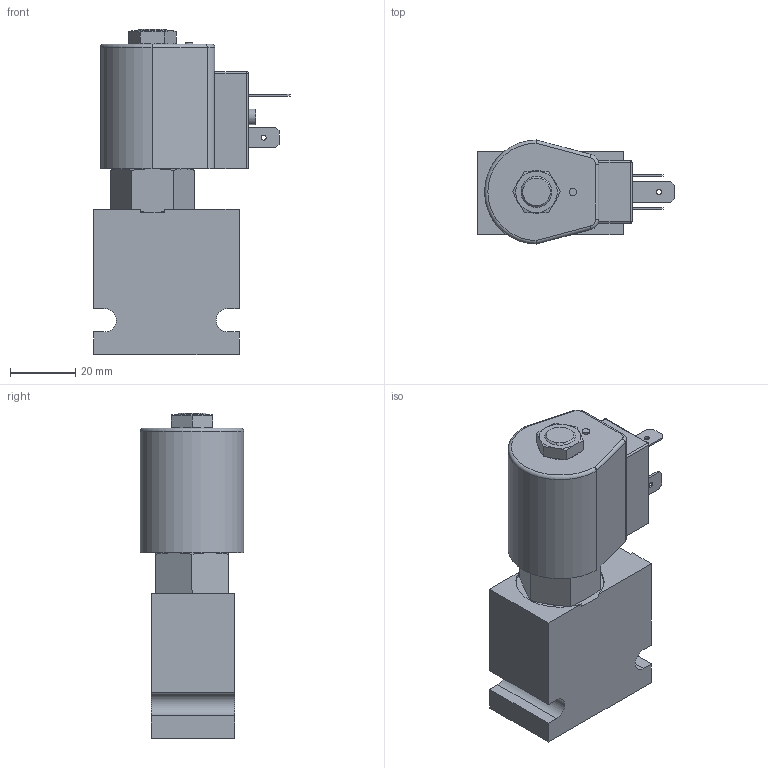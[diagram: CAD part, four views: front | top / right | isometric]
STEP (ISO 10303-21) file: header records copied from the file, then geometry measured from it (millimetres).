
FILE_DESCRIPTION( ( 'Unknown' ), '1' );
FILE_NAME( 'G:/Graphic Design/Graphic Design 2/Data Sheets/SOLENOID OPERATED VALVES/4_STEP/2W2P Normally Closed/HA-S2P00-A2.stp', 'Unknown', ( 'Unknown' ), ( 'Unknown' ), 'PSStep 15.0.49', 'Unknown', ' ' );
FILE_SCHEMA( ( 'AUTOMOTIVE_DESIGN { 1 0 10303 214 1 1 1 1 }' ) );
Length unit declared in the file: millimetre
Products named in the file (11): HAS2P00; MAS2E00-3D Full1; MAS2E00-3D Full2; MAS2E00-3D Full3; MAS2E00-3D Full4; MAS2E00-3D Full5; d-mhc12; MHC_0; Assem1; B-DMAA2L; Delta_3_8_nut1
Assembly tree (10 placements, depth 3):
  Assem1
    B-DMAA2L
    Delta_3_8_nut1
    HAS2P00
      MAS2E00-3D Full1
      MAS2E00-3D Full2
      MAS2E00-3D Full3
      MAS2E00-3D Full4
      MAS2E00-3D Full5
    d-mhc12
      MHC_0
Bounding box: 60.16 x 31.75 x 99.41 mm (x, y, z)
Volume: 86607.5 mm3; surface area: 25586.7 mm2
Topology: 8 solids, 8 shells, 259 faces, 597 edges, 374 vertices
Faces by surface type: plane 127, cone 62, cylinder 58, torus 8, sphere 4
Full cylindrical faces by diameter (mm): 0.2 x2, 1.524 x2, 1.536 x1, 1.981 x6, 2.286 x1, 3.175 x1, 3.874 x1, 4.763 x1, 6.3 x1, 7.163 x1, 8 x1, 8.379 x1, 9.449 x1, 9.525 x1, 9.842 x1, 9.893 x2, 10.96 x1, 11.5 x4, 12.535 x2, 12.624 x2, 12.7 x1, 13.081 x1, 13.805 x1, 14.348 x2, 16.48 x1, 22.22 x1
Entity records: 9063 total; most frequent: CARTESIAN_POINT 1557, DIRECTION 1071, ORIENTED_EDGE 972, EDGE_CURVE 486, AXIS2_PLACEMENT_3D 443, EDGE_LOOP 381, VERTEX_POINT 349, FACE_OUTER_BOUND 300
